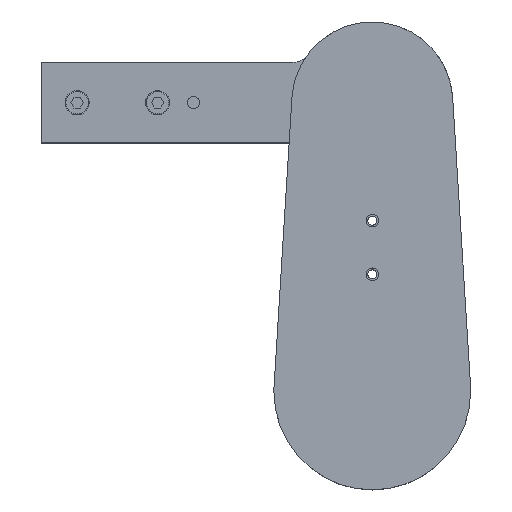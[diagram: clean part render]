
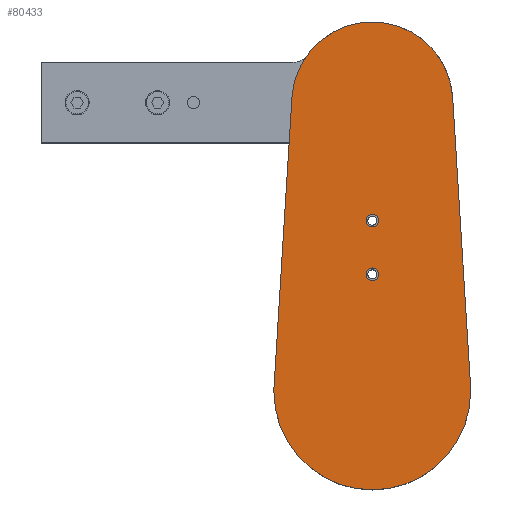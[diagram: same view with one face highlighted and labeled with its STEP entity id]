
A CAD part, top view. The second image highlights one B-rep face of the part: STEP entity #80433.
In plain terms, the highlighted planar face has unit normal (0, 0, 1) as drawn and (0, 0, -1) by its records, which use the part's own axes.
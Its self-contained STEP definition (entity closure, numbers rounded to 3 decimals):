
#1086 = ORIENTED_EDGE ( 'NONE', *, *, #79700, .F. ) ;
#1398 = DIRECTION ( 'NONE',  ( 1., 0., 0. ) ) ;
#1586 = CIRCLE ( 'NONE', #77627, 55. ) ;
#1948 = CARTESIAN_POINT ( 'NONE',  ( 0., 0., 0. ) ) ;
#2268 = VECTOR ( 'NONE', #60316, 1000. ) ;
#3306 = ORIENTED_EDGE ( 'NONE', *, *, #68054, .F. ) ;
#8276 = CARTESIAN_POINT ( 'NONE',  ( 0., 0., 0. ) ) ;
#9082 = AXIS2_PLACEMENT_3D ( 'NONE', #44390, #50709, #12951 ) ;
#9433 = VERTEX_POINT ( 'NONE', #21886 ) ;
#9620 = CIRCLE ( 'NONE', #30846, 55. ) ;
#11099 = CARTESIAN_POINT ( 'NONE',  ( 0., 65.5, 0. ) ) ;
#11782 = VERTEX_POINT ( 'NONE', #54038 ) ;
#12938 = EDGE_CURVE ( 'NONE', #36852, #29166, #25082, .T. ) ;
#12951 = DIRECTION ( 'NONE',  ( 1., 0., 0. ) ) ;
#13231 = CARTESIAN_POINT ( 'NONE',  ( -3.5, 95.5, 0. ) ) ;
#13626 = DIRECTION ( 'NONE',  ( 0., 0., 1. ) ) ;
#14008 = FACE_BOUND ( 'NONE', #49498, .T. ) ;
#16201 = CARTESIAN_POINT ( 'NONE',  ( -44.914, 164.286, 0. ) ) ;
#16426 = EDGE_CURVE ( 'NONE', #29166, #36852, #42528, .T. ) ;
#17170 = ORIENTED_EDGE ( 'NONE', *, *, #38391, .F. ) ;
#17504 = DIRECTION ( 'NONE',  ( 1., 0., 0. ) ) ;
#19946 = FACE_BOUND ( 'NONE', #75022, .T. ) ;
#20343 = ORIENTED_EDGE ( 'NONE', *, *, #45688, .F. ) ;
#20520 = PLANE ( 'NONE',  #80806 ) ;
#20594 = CIRCLE ( 'NONE', #9082, 55. ) ;
#21478 = VERTEX_POINT ( 'NONE', #62770 ) ;
#21886 = CARTESIAN_POINT ( 'NONE',  ( -44.914, 164.286, 0. ) ) ;
#22037 = DIRECTION ( 'NONE',  ( 1., 0., 0. ) ) ;
#22234 = EDGE_CURVE ( 'NONE', #32036, #72281, #45854, .T. ) ;
#22308 = EDGE_LOOP ( 'NONE', ( #17170, #20343, #71228, #3306, #39805, #1086 ) ) ;
#22634 = AXIS2_PLACEMENT_3D ( 'NONE', #53457, #78575, #22037 ) ;
#23080 = VERTEX_POINT ( 'NONE', #70888 ) ;
#24773 = ORIENTED_EDGE ( 'NONE', *, *, #62723, .F. ) ;
#24791 = DIRECTION ( 'NONE',  ( -0.062, 0.998, 0. ) ) ;
#24841 = FACE_OUTER_BOUND ( 'NONE', #22308, .T. ) ;
#25082 = CIRCLE ( 'NONE', #61504, 3.5 ) ;
#25914 = LINE ( 'NONE', #50681, #35794 ) ;
#27356 = DIRECTION ( 'NONE',  ( 0., 0., 1. ) ) ;
#29166 = VERTEX_POINT ( 'NONE', #54655 ) ;
#30656 = VERTEX_POINT ( 'NONE', #76483 ) ;
#30846 = AXIS2_PLACEMENT_3D ( 'NONE', #1948, #27356, #1398 ) ;
#31149 = CIRCLE ( 'NONE', #22634, 45. ) ;
#31205 = CARTESIAN_POINT ( 'NONE',  ( 44.914, 164.286, 0. ) ) ;
#32036 = VERTEX_POINT ( 'NONE', #32438 ) ;
#32438 = CARTESIAN_POINT ( 'NONE',  ( 3.5, 65.5, 0. ) ) ;
#33204 = CARTESIAN_POINT ( 'NONE',  ( 0., 161.5, 0. ) ) ;
#35745 = CIRCLE ( 'NONE', #64627, 3.5 ) ;
#35794 = VECTOR ( 'NONE', #24791, 1000. ) ;
#36518 = DIRECTION ( 'NONE',  ( 0., 0., -1. ) ) ;
#36852 = VERTEX_POINT ( 'NONE', #13231 ) ;
#37470 = CARTESIAN_POINT ( 'NONE',  ( -3.5, 65.5, 0. ) ) ;
#38263 = EDGE_CURVE ( 'NONE', #23080, #21478, #1586, .T. ) ;
#38391 = EDGE_CURVE ( 'NONE', #52099, #9433, #31149, .T. ) ;
#39545 = DIRECTION ( 'NONE',  ( 1., 0., 0. ) ) ;
#39805 = ORIENTED_EDGE ( 'NONE', *, *, #38263, .F. ) ;
#40149 = DIRECTION ( 'NONE',  ( 1., 0., 0. ) ) ;
#42528 = CIRCLE ( 'NONE', #52863, 3.5 ) ;
#44390 = CARTESIAN_POINT ( 'NONE',  ( 0., 0., 0. ) ) ;
#45688 = EDGE_CURVE ( 'NONE', #30656, #52099, #25914, .T. ) ;
#45854 = CIRCLE ( 'NONE', #61018, 3.5 ) ;
#46854 = DIRECTION ( 'NONE',  ( 0., 0., 1. ) ) ;
#48422 = DIRECTION ( 'NONE',  ( 0., 0., -1. ) ) ;
#49498 = EDGE_LOOP ( 'NONE', ( #66652, #24773 ) ) ;
#50454 = EDGE_CURVE ( 'NONE', #11782, #30656, #9620, .T. ) ;
#50681 = CARTESIAN_POINT ( 'NONE',  ( 44.914, 164.286, 0. ) ) ;
#50709 = DIRECTION ( 'NONE',  ( 0., 0., 1. ) ) ;
#52099 = VERTEX_POINT ( 'NONE', #31205 ) ;
#52631 = LINE ( 'NONE', #16201, #2268 ) ;
#52819 = CARTESIAN_POINT ( 'NONE',  ( 0., 65.5, 0. ) ) ;
#52863 = AXIS2_PLACEMENT_3D ( 'NONE', #54765, #48422, #17504 ) ;
#53457 = CARTESIAN_POINT ( 'NONE',  ( 0., 161.5, 0. ) ) ;
#54038 = CARTESIAN_POINT ( 'NONE',  ( 55., 0., 0. ) ) ;
#54655 = CARTESIAN_POINT ( 'NONE',  ( 3.5, 95.5, 0. ) ) ;
#54765 = CARTESIAN_POINT ( 'NONE',  ( 0., 95.5, 0. ) ) ;
#55234 = DIRECTION ( 'NONE',  ( 0., 0., -1. ) ) ;
#55275 = DIRECTION ( 'NONE',  ( 1., 0., 0. ) ) ;
#60316 = DIRECTION ( 'NONE',  ( -0.062, -0.998, 0. ) ) ;
#61018 = AXIS2_PLACEMENT_3D ( 'NONE', #11099, #55234, #61527 ) ;
#61504 = AXIS2_PLACEMENT_3D ( 'NONE', #61850, #36518, #55275 ) ;
#61527 = DIRECTION ( 'NONE',  ( 1., 0., 0. ) ) ;
#61850 = CARTESIAN_POINT ( 'NONE',  ( 0., 95.5, 0. ) ) ;
#62723 = EDGE_CURVE ( 'NONE', #72281, #32036, #35745, .T. ) ;
#62770 = CARTESIAN_POINT ( 'NONE',  ( -55., 0., 0. ) ) ;
#64627 = AXIS2_PLACEMENT_3D ( 'NONE', #52819, #71311, #40149 ) ;
#64800 = ORIENTED_EDGE ( 'NONE', *, *, #12938, .F. ) ;
#66652 = ORIENTED_EDGE ( 'NONE', *, *, #22234, .F. ) ;
#68054 = EDGE_CURVE ( 'NONE', #21478, #11782, #20594, .T. ) ;
#70888 = CARTESIAN_POINT ( 'NONE',  ( -54.894, 3.406, 0. ) ) ;
#71228 = ORIENTED_EDGE ( 'NONE', *, *, #50454, .F. ) ;
#71311 = DIRECTION ( 'NONE',  ( 0., 0., -1. ) ) ;
#72281 = VERTEX_POINT ( 'NONE', #37470 ) ;
#73307 = ORIENTED_EDGE ( 'NONE', *, *, #16426, .F. ) ;
#75022 = EDGE_LOOP ( 'NONE', ( #73307, #64800 ) ) ;
#76483 = CARTESIAN_POINT ( 'NONE',  ( 54.894, 3.406, 0. ) ) ;
#77627 = AXIS2_PLACEMENT_3D ( 'NONE', #8276, #46854, #77771 ) ;
#77771 = DIRECTION ( 'NONE',  ( 1., 0., 0. ) ) ;
#78575 = DIRECTION ( 'NONE',  ( 0., 0., 1. ) ) ;
#79700 = EDGE_CURVE ( 'NONE', #9433, #23080, #52631, .T. ) ;
#80433 = ADVANCED_FACE ( 'NONE', ( #19946, #14008, #24841 ), #20520, .F. ) ;
#80806 = AXIS2_PLACEMENT_3D ( 'NONE', #33204, #13626, #39545 ) ;
